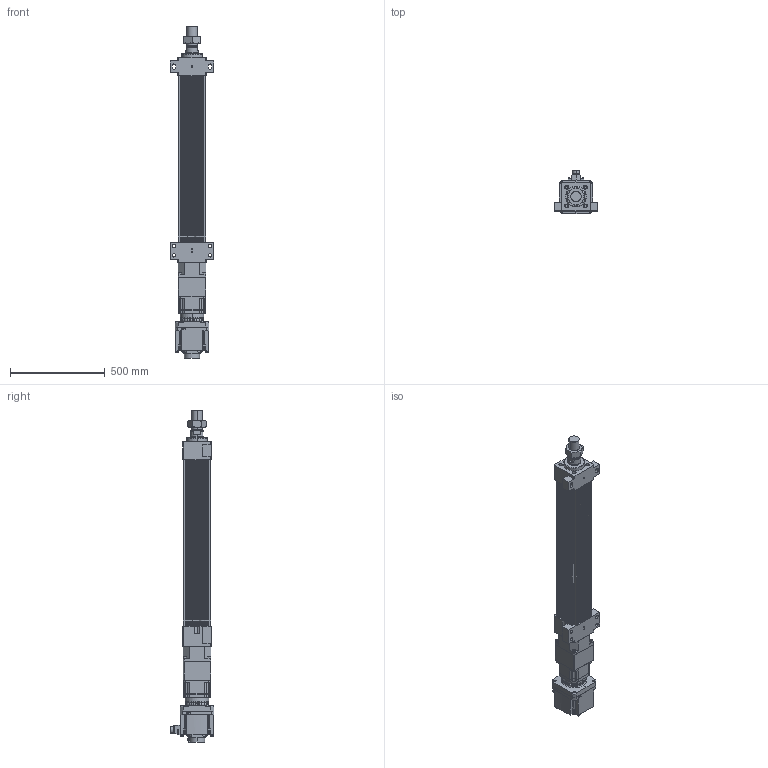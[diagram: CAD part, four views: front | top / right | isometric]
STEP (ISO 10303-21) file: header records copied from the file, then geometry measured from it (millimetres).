
FILE_DESCRIPTION (( 'STEP AP203' ), '1' );
FILE_NAME ('HES150NS(HS)-S600-W035G00-M-FFB.STEP', '2023-02-01T03:17:32', ( 'tms' ), ( '' ), 'SwSTEP 2.0', 'SolidWorks 2013', '' );
FILE_SCHEMA (( 'CONFIG_CONTROL_DESIGN' ));
Length unit declared in the file: millimetre
Products named in the file (9): P0403500801; HES150 ROD M ST600; M56X2.0P; AB142-003[HG-SR352]; AB1421; P1301500001; HES150-S600-G142-FFB; HES150NS(HS)-S600-W035G00-M-FFB; HG-SR352
Assembly tree (8 placements, depth 3):
  HES150NS(HS)-S600-W035G00-M-FFB
    HES150-S600-G142-FFB
    HES150 ROD M ST600
    M56X2.0P
    AB142-003[HG-SR352]
      AB1421
      P1301500001
      P0403500801
    HG-SR352
Bounding box: 230 x 228.85 x 1747.5 mm (x, y, z)
Volume: 19764390.8 mm3; surface area: 2191455.3 mm2
Topology: 5 solids, 23 shells, 1522 faces, 3951 edges, 2569 vertices
Faces by surface type: cylinder 691, plane 599, cone 150, bspline 76, torus 6
Entity records: 55583 total; most frequent: CARTESIAN_POINT 16843, DIRECTION 8091, ORIENTED_EDGE 7808, EDGE_CURVE 3926, AXIS2_PLACEMENT_3D 3042, VERTEX_POINT 2569, LINE 2007, VECTOR 2007
